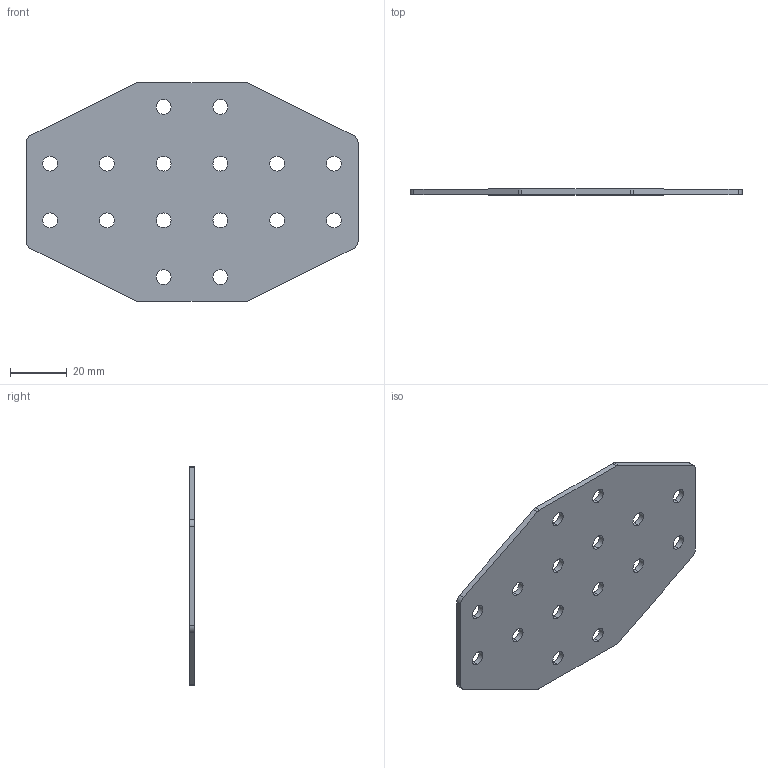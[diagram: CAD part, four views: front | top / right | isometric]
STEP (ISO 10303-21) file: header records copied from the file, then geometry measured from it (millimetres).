
FILE_DESCRIPTION (( 'STEP AP203' ), '1' );
FILE_NAME ('ﾕ-16-ﾓ-20.STEP', '2016-07-23T10:02:02', ( '' ), ( '' ), 'SwSTEP 2.0', 'SolidWorks 2014', '' );
FILE_SCHEMA (( 'CONFIG_CONTROL_DESIGN' ));
Length unit declared in the file: millimetre
Products named in the file (1): ﾕ-16-ﾓ-20
Bounding box: 117 x 2 x 77 mm (x, y, z)
Surface area: 15493 mm2 (no closed solid volume)
Topology: 0 solids, 1 shells, 50 faces, 144 edges, 96 vertices
Faces by surface type: cylinder 40, plane 10
Entity records: 1829 total; most frequent: DIRECTION 326, CARTESIAN_POINT 291, ORIENTED_EDGE 288, EDGE_CURVE 144, AXIS2_PLACEMENT_3D 131, VERTEX_POINT 96, EDGE_LOOP 82, CIRCLE 80
